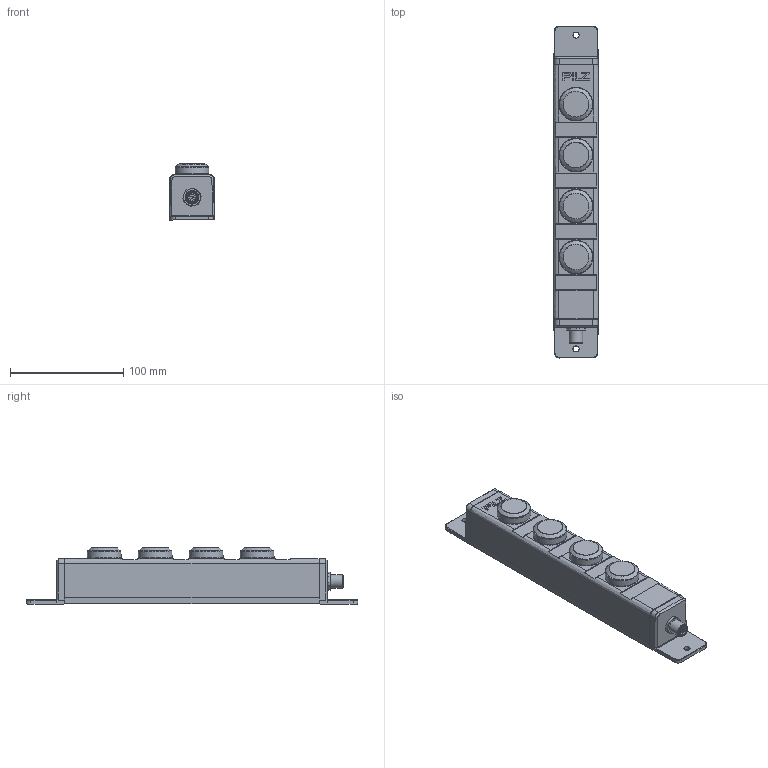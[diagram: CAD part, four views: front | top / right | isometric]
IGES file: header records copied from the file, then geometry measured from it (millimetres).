
Global section: file name: 2030189_B_PIT_gb_LLLL; native system: Autodesk Inventor 2020; preprocessor: unknown; author: ES-PE; date: 20210415.160144; units: millimetre
Bounding box: 40 x 293 x 49.43 mm (x, y, z)
Volume: 408325.2 mm3; surface area: 58591.5 mm2
Topology: 6 solids, 6 shells, 541 faces, 1343 edges, 865 vertices
Faces by surface type: bspline 541
